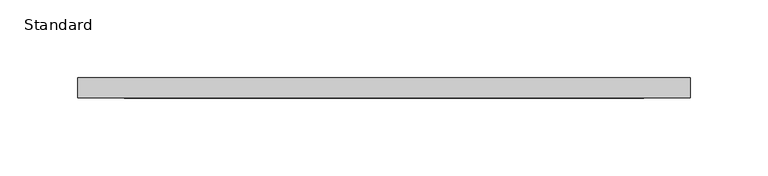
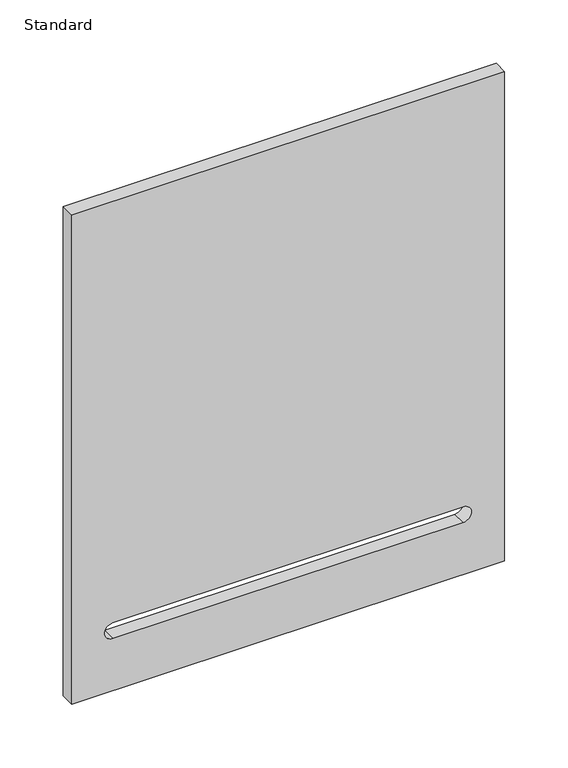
"""IFC4 building model written with IfcOpenShell, lengths in millimetres: furniture geometry, X_Locker-Duracube-Door : Standard."""

import ifcopenshell
import ifcopenshell.guid

model = None  # the IFC model being written
_history = None  # IfcOwnerHistory: only IFC2X3 demands one
_inside = {}  # id of a spatial element -> (the spatial element, [elements in it])
_under = {}  # id of a project, library or spatial element -> (it, [spatial elements below it])
_declared = {}  # id of a project -> (the project, [libraries it declares])
_typed = {}  # id of a type object -> (the type object, [elements of that type])
_made_of = {}  # id of a material, layer set ... -> (it, [elements and type objects made of it])


def new_model(schema):
    """Start an empty IFC model of exactly this schema.

    Asked for "IFC4X3", IfcOpenShell would pick the latest addendum, in which some entities
    have other attributes; the version numbers below select the first issue.
    IFC2X3 requires an IfcOwnerHistory on every rooted entity: one is made here for all.
    """
    global model, _history
    if schema == "IFC4X3":
        model = ifcopenshell.file(schema_version=(4, 3, 0, 0))
    else:
        model = ifcopenshell.file(schema=schema)
    _inside.clear()
    _under.clear()
    _declared.clear()
    _typed.clear()
    _made_of.clear()
    _history = None
    if model.schema == "IFC2X3":
        org = make("IfcOrganization", Name="unknown")
        user = make(
            "IfcPersonAndOrganization",
            ThePerson=make("IfcPerson", FamilyName="unknown"),
            TheOrganization=org,
        )
        app = make(
            "IfcApplication",
            ApplicationDeveloper=org,
            Version="unknown",
            ApplicationFullName="unknown",
            ApplicationIdentifier="unknown",
        )
        _history = make(
            "IfcOwnerHistory",
            OwningUser=user,
            OwningApplication=app,
            ChangeAction="ADDED",
            CreationDate=0,
        )
    return model


def make(cls, **values):
    """One entity of the class cls with the attributes given. An attribute that is None is left unset."""
    return model.create_entity(
        cls, **{name: value for name, value in values.items() if value is not None}
    )


def rooted(cls, **values):
    """An entity with a GlobalId (a new one), such as an element, a storey or a relation."""
    return make(cls, GlobalId=ifcopenshell.guid.new(), OwnerHistory=_history, **values)


def si_unit(unit_type, name, prefix=None):
    """IfcSIUnit, for example si_unit("LENGTHUNIT", "METRE", prefix="MILLI")."""
    return make("IfcSIUnit", UnitType=unit_type, Prefix=prefix, Name=name)


def assignment(units):
    """IfcUnitAssignment: the units of a project."""
    return None if units is None else make("IfcUnitAssignment", Units=units)


def point(xyz):
    """IfcCartesianPoint."""
    return None if xyz is None else make("IfcCartesianPoint", Coordinates=xyz)


def direction(xyz):
    """IfcDirection."""
    return None if xyz is None else make("IfcDirection", DirectionRatios=xyz)


def frame(location, z_axis=None, x_axis=None):
    """IfcAxis2Placement3D, a coordinate frame: its origin and axes. An axis left out is left unset."""
    return make(
        "IfcAxis2Placement3D",
        Location=point(location),
        Axis=direction(z_axis),
        RefDirection=direction(x_axis),
    )


def frame_2d(location, x_axis=None):
    """IfcAxis2Placement2D, a coordinate frame in the plane: its origin and x axis."""
    return make(
        "IfcAxis2Placement2D", Location=point(location), RefDirection=direction(x_axis)
    )


def origin():
    """The frame at (0, 0, 0) with its axes left unset."""
    return frame((0.0, 0.0, 0.0))


def place(relative_to, where):
    """IfcLocalPlacement: puts the frame where relative to a parent placement (None: the world)."""
    return make(
        "IfcLocalPlacement", PlacementRelTo=relative_to, RelativePlacement=where
    )


def context(
    kind, dimensions, precision=None, world=None, true_north=None, identifier=None
):
    """IfcGeometricRepresentationContext, for example the 3D "Model" context."""
    return make(
        "IfcGeometricRepresentationContext",
        ContextIdentifier=identifier,
        ContextType=kind,
        CoordinateSpaceDimension=dimensions,
        Precision=precision,
        WorldCoordinateSystem=world,
        TrueNorth=true_north,
    )


def project(units=None, contexts=None):
    """IfcProject with its units and contexts."""
    return rooted(
        "IfcProject",
        Name="project",
        RepresentationContexts=contexts,
        UnitsInContext=assignment(units),
    )


def spatial(cls, under=None, at=None, **own):
    """A site, building, storey or space (cls), placed at a placement, below another one or the project."""
    s = rooted(cls, ObjectPlacement=at, **own)
    if under is not None:
        _under.setdefault(under.id(), (under, []))[1].append(s)
    return s


def polyline(points):
    """IfcPolyline through the points."""
    return make("IfcPolyline", Points=[point(p) for p in points])


def circle_curve(where, radius):
    """IfcCircle in the frame where."""
    return make("IfcCircle", Position=where, Radius=radius)


def trimmed(basis, trim1, trim2, sense, master):
    """IfcTrimmedCurve: the piece of a basis curve between two trims."""
    return make(
        "IfcTrimmedCurve",
        BasisCurve=basis,
        Trim1=trim1,
        Trim2=trim2,
        SenseAgreement=sense,
        MasterRepresentation=master,
    )


def segment(curve, same_sense, transition):
    """IfcCompositeCurveSegment."""
    return make(
        "IfcCompositeCurveSegment",
        Transition=transition,
        SameSense=same_sense,
        ParentCurve=curve,
    )


def composite_curve(segments, self_intersect=None):
    """IfcCompositeCurve: segments joined end to end."""
    return make("IfcCompositeCurve", Segments=segments, SelfIntersect=self_intersect)


def outline(outer, holes=None, kind="AREA"):
    """IfcArbitraryClosedProfileDef: a profile drawn as a closed curve; with holes, ...WithVoids."""
    if holes is None:
        return make("IfcArbitraryClosedProfileDef", ProfileType=kind, OuterCurve=outer)
    return make(
        "IfcArbitraryProfileDefWithVoids",
        ProfileType=kind,
        OuterCurve=outer,
        InnerCurves=holes,
    )


def extrude(swept, where, along, depth):
    """IfcExtrudedAreaSolid: the profile swept, set in the frame where, extruded along a direction by depth."""
    return make(
        "IfcExtrudedAreaSolid",
        SweptArea=swept,
        Position=where,
        ExtrudedDirection=direction(along),
        Depth=depth,
    )


def shape(context_of_items, identifier, shape_type, items):
    """IfcShapeRepresentation: the items that make up one representation, for example the "Body"."""
    return make(
        "IfcShapeRepresentation",
        ContextOfItems=context_of_items,
        RepresentationIdentifier=identifier,
        RepresentationType=shape_type,
        Items=items,
    )


def source(mapping_origin, context_of_items, identifier, shape_type, items):
    """IfcRepresentationMap: a shape defined once, which mapped items show again and again."""
    return make(
        "IfcRepresentationMap",
        MappingOrigin=mapping_origin,
        MappedRepresentation=shape(context_of_items, identifier, shape_type, items),
    )


def transform(
    local_origin,
    x_axis=None,
    y_axis=None,
    z_axis=None,
    scale=None,
    scale2=None,
    scale3=None,
    uniform=True,
):
    """IfcCartesianTransformationOperator3D, or its non-uniform kind. x_axis, y_axis, z_axis: its Axis1, 2, 3."""
    if uniform:
        return make(
            "IfcCartesianTransformationOperator3D",
            Axis1=direction(x_axis),
            Axis2=direction(y_axis),
            LocalOrigin=point(local_origin),
            Scale=scale,
            Axis3=direction(z_axis),
        )
    return make(
        "IfcCartesianTransformationOperator3DnonUniform",
        Axis1=direction(x_axis),
        Axis2=direction(y_axis),
        LocalOrigin=point(local_origin),
        Scale=scale,
        Axis3=direction(z_axis),
        Scale2=scale2,
        Scale3=scale3,
    )


def mapped(mapping_source, mapping_target):
    """IfcMappedItem: shows the shape of a source again, moved by a transform."""
    return make(
        "IfcMappedItem", MappingSource=mapping_source, MappingTarget=mapping_target
    )


def made_of(thing, what):
    """Note that an element or type object is made of a material, layer set ...; save() writes the relation."""
    if what is not None:
        _made_of.setdefault(what.id(), (what, []))[1].append(thing)
    return thing


def element(
    cls,
    number,
    at=None,
    inside=None,
    cuts=None,
    type_object=None,
    material=None,
    context=None,
    identifier="Body",
    shape_type=None,
    held_by="IfcProductDefinitionShape",
    body=None,
    shapes=None,
    **own,
):
    """One element of the class cls, such as IfcWall. Its Tag is "e" and its number.

    at: its placement. inside: the storey or other place that contains it. cuts: it is an
    opening in that element (IfcRelVoidsElement). A single representation is given by context,
    identifier, shape_type and body (its items); several are given by shapes. held_by: the class
    of the entity that holds the representations. save() writes the other relations.
    """
    e = rooted(cls, Tag="e%d" % number, ObjectPlacement=at, **own)
    if body is not None:
        shapes = [shape(context, identifier, shape_type, body)]
    if shapes is not None:
        e.Representation = make(held_by, Representations=shapes)
    if inside is not None:
        _inside.setdefault(inside.id(), (inside, []))[1].append(e)
    if cuts is not None:
        rooted(
            "IfcRelVoidsElement", RelatingBuildingElement=cuts, RelatedOpeningElement=e
        )
    if type_object is not None:
        _typed.setdefault(type_object.id(), (type_object, []))[1].append(e)
    return made_of(e, material)


def aggregate(whole, parts):
    """IfcRelAggregates: a whole, such as a stair, and the parts it consists of."""
    return rooted("IfcRelAggregates", RelatingObject=whole, RelatedObjects=parts)


def save(model, path):
    """Write the relations noted so far, then the file.

    IfcRelAggregates (storeys below a building ...), IfcRelContainedInSpatialStructure (elements
    in a storey), IfcRelDefinesByType, IfcRelAssociatesMaterial and IfcRelDeclares: one each for
    every whole, place, type object, material and project.
    """
    for whole, parts in _under.values():
        aggregate(whole, parts)
    for where, things in _inside.values():
        rooted(
            "IfcRelContainedInSpatialStructure",
            RelatedElements=things,
            RelatingStructure=where,
        )
    for kind, things in _typed.values():
        rooted("IfcRelDefinesByType", RelatedObjects=things, RelatingType=kind)
    for what, things in _made_of.values():
        rooted("IfcRelAssociatesMaterial", RelatedObjects=things, RelatingMaterial=what)
    for by, libraries in _declared.values():
        rooted("IfcRelDeclares", RelatingContext=by, RelatedDefinitions=libraries)
    model.write(path)


def standard_06cb4884(model_context):
    return source(origin(), model_context, "Body", "SweptSolid", [
        extrude(outline(polyline([(473.6666667, 241.7003264), (473.6666667, -152.2996736), (3.0, -152.2996736), (3.0, 241.7003264), (473.6666667, 241.7003264)]), holes=[composite_curve([segment(trimmed(circle_curve(frame_2d((60.5, 204.2003264)), 7.5), [point((68.0, 204.2003264))], [point((53.0, 204.2003264))], True, "CARTESIAN"), True, "CONTINUOUS"), segment(polyline([(53.0, 204.2003264), (53.0, -114.7996736)]), True, "CONTINUOUS"), segment(trimmed(circle_curve(frame_2d((60.5, -114.7996736)), 7.5), [point((53.0, -114.7996736))], [point((68.0, -114.7996736))], True, "CARTESIAN"), True, "CONTINUOUS"), segment(polyline([(68.0, -114.7996736), (68.0, 204.2003264)]), True, "CONTINUOUS")], self_intersect=False)]), frame((0.0, -13.0, 0.0), z_axis=(0.0, 1.0, 0.0), x_axis=(0.0, 0.0, 1.0)), (0.0, 0.0, 1.0), 13.0),
    ])


if __name__ == "__main__":
    model = new_model("IFC4")
    model_context = context("Model", 3, world=origin())
    ifc_project = project(units=[si_unit("LENGTHUNIT", "METRE", prefix="MILLI")], contexts=[model_context])
    site = spatial("IfcSite", under=ifc_project)
    building = spatial("IfcBuilding", under=site)
    placement = place(None, origin())
    standard_shape = standard_06cb4884(model_context)
    element("IfcFurniture", 1, ObjectType="X_Locker-Duracube-Door : Standard", at=placement, inside=building, context=model_context, shape_type="MappedRepresentation", body=[
        mapped(standard_shape, transform((0.0, 0.0, 0.0), x_axis=(1.0, 0.0, 0.0), y_axis=(0.0, 1.0, 0.0), z_axis=(0.0, 0.0, 1.0))),
    ])
    save(model, "model.ifc")
